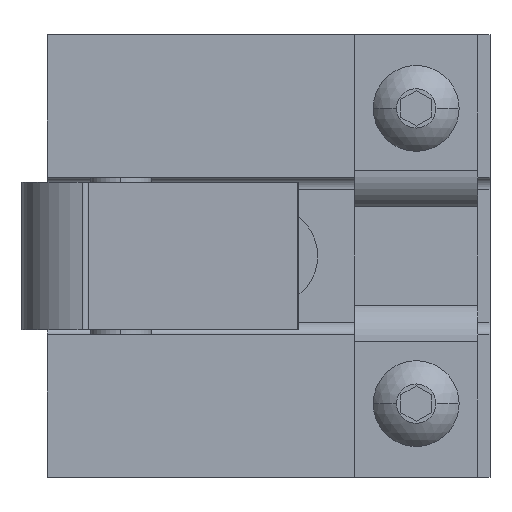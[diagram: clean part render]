
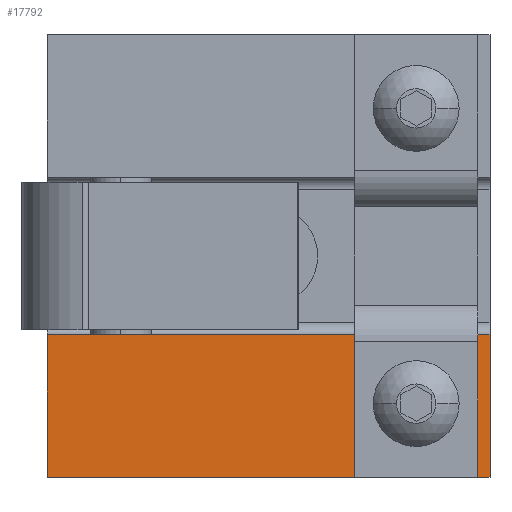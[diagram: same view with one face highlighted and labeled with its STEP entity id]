
A CAD part, left-side view. The second image highlights one B-rep face of the part: STEP entity #17792.
In plain terms, the highlighted planar face has unit normal (-1, 0, 0).
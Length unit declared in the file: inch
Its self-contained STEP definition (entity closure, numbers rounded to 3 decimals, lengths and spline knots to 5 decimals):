
#294 = FACE_OUTER_BOUND ( 'NONE', #17850, .T. ) ;
#295 = FACE_BOUND ( 'NONE', #17800, .T. ) ;
#318 = DIRECTION ( 'NONE',  ( 0., 0., 1. ) ) ;
#319 = DIRECTION ( 'NONE',  ( -1., 0., 0. ) ) ;
#320 = CARTESIAN_POINT ( 'NONE',  ( 2.43951, 4.12904, -1.875 ) ) ;
#321 = AXIS2_PLACEMENT_3D ( 'NONE', #320, #319, #318 ) ;
#323 = DIRECTION ( 'NONE',  ( 0., 0., 1. ) ) ;
#343 = DIRECTION ( 'NONE',  ( -1., 0., 0. ) ) ;
#344 = CARTESIAN_POINT ( 'NONE',  ( 2.43951, 3.75404, -2.25 ) ) ;
#345 = CIRCLE ( 'NONE', #321, 0.125 ) ;
#346 = AXIS2_PLACEMENT_3D ( 'NONE', #344, #343, #323 ) ;
#347 = PLANE ( 'NONE',  #346 ) ;
#492 = CARTESIAN_POINT ( 'NONE',  ( 2.43951, 3.75404, -1.525 ) ) ;
#493 = DIRECTION ( 'NONE',  ( 0., 0., 1. ) ) ;
#494 = VECTOR ( 'NONE', #493, 39.37008 ) ;
#495 = CARTESIAN_POINT ( 'NONE',  ( 2.43951, 3.75404, -2.25 ) ) ;
#496 = LINE ( 'NONE', #495, #494 ) ;
#546 = CARTESIAN_POINT ( 'NONE',  ( 2.43951, 3.75404, -2.25 ) ) ;
#547 = DIRECTION ( 'NONE',  ( 0., -1., 0. ) ) ;
#548 = VECTOR ( 'NONE', #547, 39.37008 ) ;
#549 = CARTESIAN_POINT ( 'NONE',  ( 2.43951, 3.75404, -1.525 ) ) ;
#550 = LINE ( 'NONE', #549, #548 ) ;
#690 = DIRECTION ( 'NONE',  ( 0., -1., 0. ) ) ;
#691 = VECTOR ( 'NONE', #690, 39.37008 ) ;
#692 = CARTESIAN_POINT ( 'NONE',  ( 2.43951, 3.75404, -2.25 ) ) ;
#693 = LINE ( 'NONE', #692, #691 ) ;
#1510 = CARTESIAN_POINT ( 'NONE',  ( 2.43951, 4.12904, -1.75 ) ) ;
#1511 = DIRECTION ( 'NONE',  ( 0., 0., 1. ) ) ;
#1512 = DIRECTION ( 'NONE',  ( -1., 0., 0. ) ) ;
#1513 = CARTESIAN_POINT ( 'NONE',  ( 2.43951, 4.12904, -1.875 ) ) ;
#1514 = AXIS2_PLACEMENT_3D ( 'NONE', #1513, #1512, #1511 ) ;
#1515 = CIRCLE ( 'NONE', #1514, 0.125 ) ;
#1516 = CARTESIAN_POINT ( 'NONE',  ( 2.43951, 4.12904, -2. ) ) ;
#1970 = CARTESIAN_POINT ( 'NONE',  ( 2.43951, 6.00404, -1.525 ) ) ;
#2109 = DIRECTION ( 'NONE',  ( 0., 0., 1. ) ) ;
#2110 = VECTOR ( 'NONE', #2109, 39.37008 ) ;
#2111 = CARTESIAN_POINT ( 'NONE',  ( 2.43951, 6.00404, -2.25 ) ) ;
#2112 = LINE ( 'NONE', #2111, #2110 ) ;
#2148 = CARTESIAN_POINT ( 'NONE',  ( 2.43951, 6.00404, -2.25 ) ) ;
#17261 = ORIENTED_EDGE ( 'NONE', *, *, #18249, .F. ) ;
#17792 = ADVANCED_FACE ( 'NONE', ( #295, #294 ), #347, .T. ) ;
#17793 = ORIENTED_EDGE ( 'NONE', *, *, #17794, .F. ) ;
#17794 = EDGE_CURVE ( 'NONE', #18250, #18247, #345, .T. ) ;
#17800 = EDGE_LOOP ( 'NONE', ( #17793, #17261 ) ) ;
#17839 = ORIENTED_EDGE ( 'NONE', *, *, #17840, .T. ) ;
#17840 = EDGE_CURVE ( 'NONE', #17849, #17842, #496, .T. ) ;
#17842 = VERTEX_POINT ( 'NONE', #492 ) ;
#17843 = ORIENTED_EDGE ( 'NONE', *, *, #17848, .F. ) ;
#17848 = EDGE_CURVE ( 'NONE', #18365, #17842, #550, .T. ) ;
#17849 = VERTEX_POINT ( 'NONE', #546 ) ;
#17850 = EDGE_LOOP ( 'NONE', ( #17843, #17904, #17910, #17839 ) ) ;
#17904 = ORIENTED_EDGE ( 'NONE', *, *, #18427, .F. ) ;
#17909 = EDGE_CURVE ( 'NONE', #18440, #17849, #693, .T. ) ;
#17910 = ORIENTED_EDGE ( 'NONE', *, *, #17909, .T. ) ;
#18247 = VERTEX_POINT ( 'NONE', #1516 ) ;
#18249 = EDGE_CURVE ( 'NONE', #18247, #18250, #1515, .T. ) ;
#18250 = VERTEX_POINT ( 'NONE', #1510 ) ;
#18365 = VERTEX_POINT ( 'NONE', #1970 ) ;
#18427 = EDGE_CURVE ( 'NONE', #18440, #18365, #2112, .T. ) ;
#18440 = VERTEX_POINT ( 'NONE', #2148 ) ;
